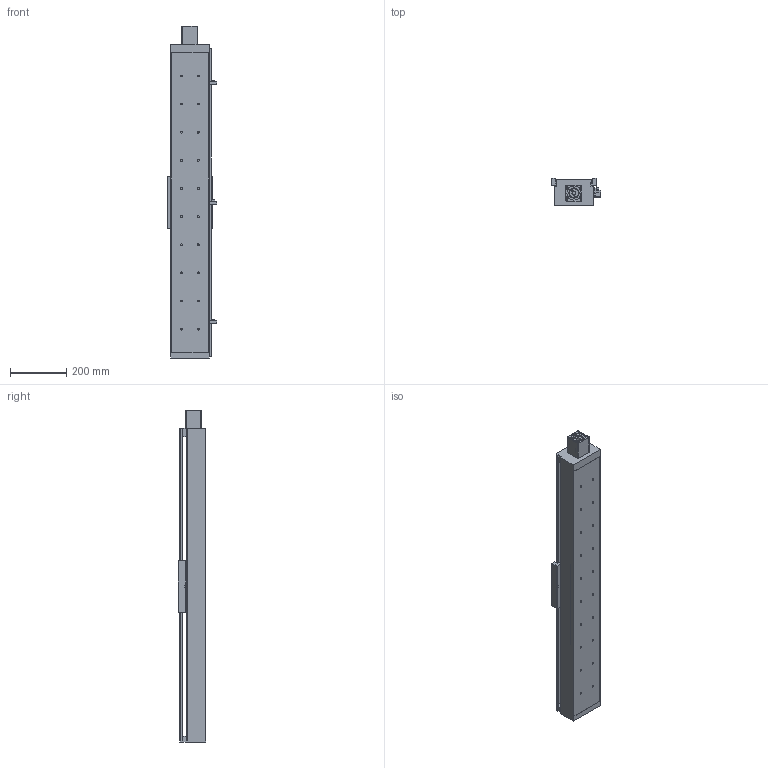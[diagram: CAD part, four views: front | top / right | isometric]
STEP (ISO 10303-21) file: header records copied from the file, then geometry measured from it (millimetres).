
FILE_DESCRIPTION((''),'2;1');
FILE_NAME('E:\libraries\UIA actuator library 2009\standard actuator\UIA136 ball screw 25\UIA136R15NDC-_ _ _-R25_ _, stp file 27Apr16\UIA136R15NDC-850-R25_ _-M60-P13-C10-S.stp','2016-04-28T16:58:56',('h029'),(''),'Autodesk Inventor 11','Autodesk Inventor 11','');
FILE_SCHEMA(('AUTOMOTIVE_DESIGN { 1 0 10303 214 1 1 1 1 }'));
Length unit declared in the file: millimetre
Products named in the file (10): UIA136R15NDC-850; UIA136R15NDC-body; motor mount F60; SOH-32C; SOH-32C-3; SOH-32C-1; SOH-32C-2; Carriage; Sensor Switch; sensor rail
Assembly tree (9 placements, depth 3):
  UIA136R15NDC-850
    UIA136R15NDC-body
    motor mount F60
    SOH-32C
      SOH-32C-3
      SOH-32C-1
      SOH-32C-2
    Carriage
    Sensor Switch
    sensor rail
Bounding box: 174.5 x 98 x 1180 mm (x, y, z)
Volume: 4458798.9 mm3; surface area: 1230930 mm2
Topology: 8 solids, 8 shells, 520 faces, 1367 edges, 894 vertices
Faces by surface type: plane 324, bspline 146, cylinder 46, cone 4
Full cylindrical faces by diameter (mm): 2.459 x2, 3.242 x2, 4.5 x2, 7 x4, 7.5 x2, 14 x3, 17 x1, 32 x3, 37 x1, 50.3 x1, 50.5 x1
Entity records: 16980 total; most frequent: CARTESIAN_POINT 4916, ORIENTED_EDGE 2328, DIRECTION 2282, EDGE_CURVE 1164, VERTEX_POINT 830, VECTOR 816, LINE 816, EDGE_LOOP 784
